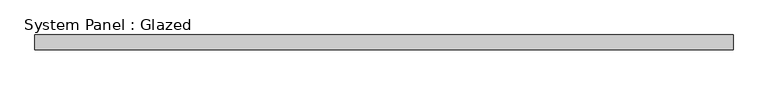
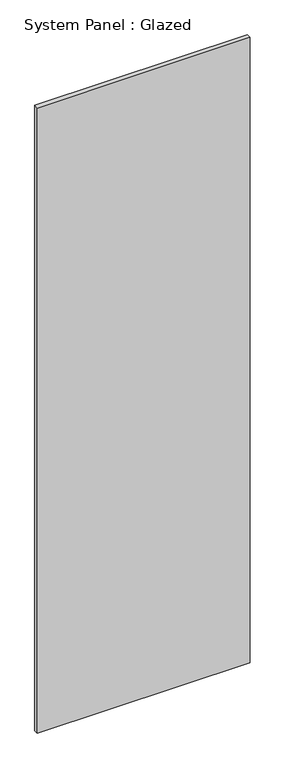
"""IFC4 building model written with IfcOpenShell, lengths in millimetres: plate geometry, System Panel : Glazed."""

from ifc_helpers import new_model, si_unit, origin, origin_with_axes, place, context, project, spatial, polyline, outline, extrude, source, transform, mapped, element, save


def system_panel_glazed_35bb093a(model_context):
    return source(origin(), model_context, "Body", "SweptSolid", [
        extrude(outline(polyline([(603.7494819, 19.05), (-603.7494819, 19.05), (-603.7494819, 44.45), (603.7494819, 44.45), (603.7494819, 19.05)])), origin_with_axes(), (0.0, 0.0, 1.0), 3746.5),
    ])


if __name__ == "__main__":
    model = new_model("IFC4")
    model_context = context("Model", 3, world=origin())
    ifc_project = project(units=[si_unit("LENGTHUNIT", "METRE", prefix="MILLI")], contexts=[model_context])
    site = spatial("IfcSite", under=ifc_project)
    building = spatial("IfcBuilding", under=site)
    placement = place(None, origin())
    system_panel_glazed_shape = system_panel_glazed_35bb093a(model_context)
    element("IfcPlate", 1, ObjectType="System Panel : Glazed", at=placement, inside=building, context=model_context, shape_type="MappedRepresentation", body=[
        mapped(system_panel_glazed_shape, transform((0.0, 0.0, 0.0), x_axis=(1.0, 0.0, 0.0), y_axis=(0.0, 1.0, 0.0), z_axis=(0.0, 0.0, 1.0))),
    ])
    save(model, "model.ifc")
